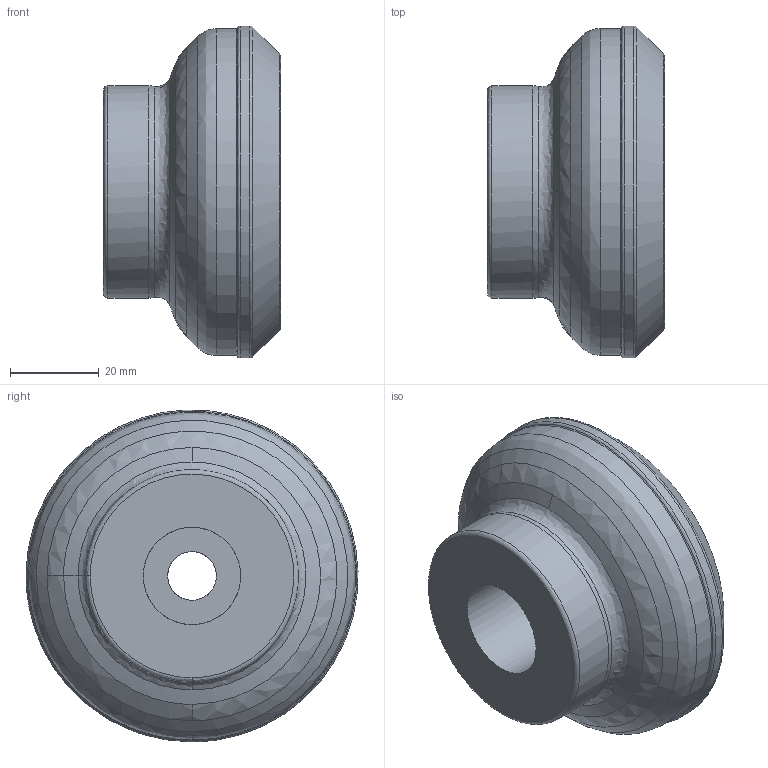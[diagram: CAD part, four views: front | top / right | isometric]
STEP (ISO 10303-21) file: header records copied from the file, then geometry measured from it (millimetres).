
FILE_DESCRIPTION ((), '1');
FILE_NAME ('CAD_213555_63_6.stp', '2018-04-03T11:20:14', (''), (''), 'HarmonyWare STEP v2.0.6.4', '', '');
FILE_SCHEMA (('CONFIG_CONTROL_DESIGN'));
Length unit declared in the file: millimetre
Bounding box: 40 x 74.99 x 74.97 mm (x, y, z)
Volume: 127280.3 mm3; surface area: 25074.3 mm2
Topology: 2 solids, 2 shells, 53 faces, 127 edges, 76 vertices
Faces by surface type: bspline 53
Entity records: 2749 total; most frequent: CARTESIAN_POINT 1992, ORIENTED_EDGE 254, EDGE_CURVE 127, VERTEX_POINT 76, EDGE_LOOP 55, FACE_OUTER_BOUND 53, ADVANCED_FACE 53, B_SPLINE_CURVE_WITH_KNOTS 19
